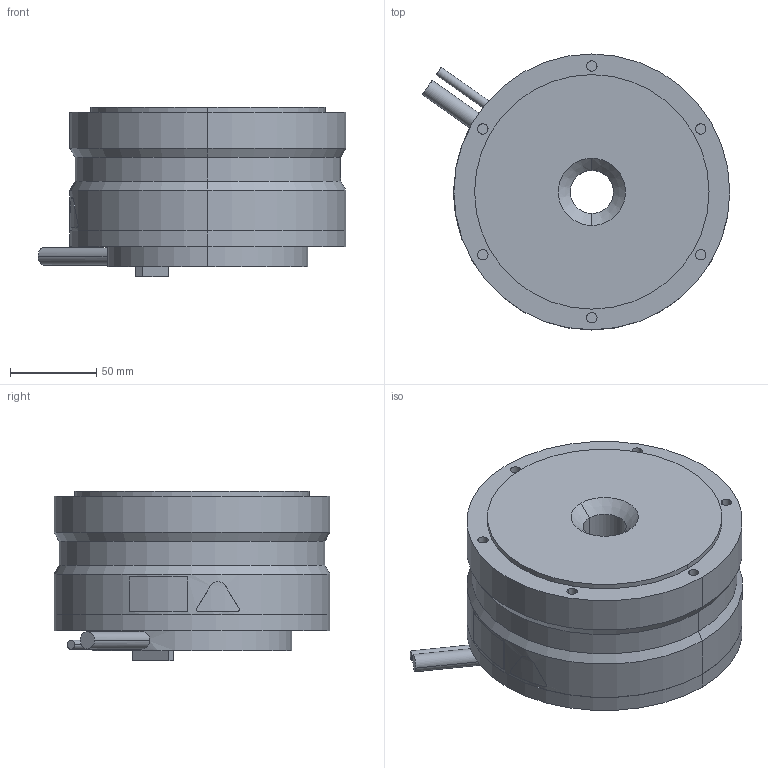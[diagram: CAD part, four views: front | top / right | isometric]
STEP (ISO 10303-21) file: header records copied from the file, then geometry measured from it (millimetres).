
FILE_DESCRIPTION (( 'STEP AP203' ), '1' );
FILE_NAME ('sgm7d_08g_c4_.STEP', '2016-02-22T08:09:29', ( '' ), ( '' ), 'SwSTEP 2.0', 'SolidWorks 2010', '' );
FILE_SCHEMA (( 'CONFIG_CONTROL_DESIGN' ));
Length unit declared in the file: millimetre
Products named in the file (1): sgm7d_08g_c4_
Bounding box: 178.36 x 160 x 98.5 mm (x, y, z)
Volume: 1658415.8 mm3; surface area: 99881.3 mm2
Topology: 1 solids, 1 shells, 188 faces, 425 edges, 280 vertices
Faces by surface type: cylinder 106, plane 71, cone 6, bspline 5
Entity records: 5792 total; most frequent: CARTESIAN_POINT 1327, DIRECTION 985, ORIENTED_EDGE 850, EDGE_CURVE 425, AXIS2_PLACEMENT_3D 396, VERTEX_POINT 280, EDGE_LOOP 231, CIRCLE 212
